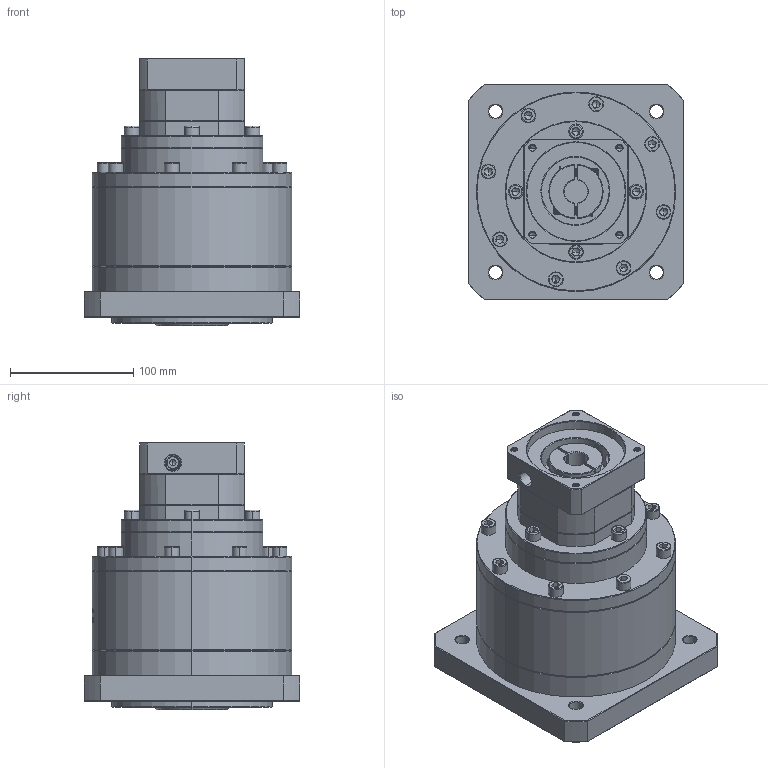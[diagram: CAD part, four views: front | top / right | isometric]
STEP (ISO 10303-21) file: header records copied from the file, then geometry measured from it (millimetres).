
FILE_DESCRIPTION (( 'STEP AP214' ), '1' );
FILE_NAME ('ZF160A-K35-L3-19-80-100-M6.step', '2023-03-22T07:12:38', ( '' ), ( '' ), 'SwSTEP 2.0', 'SolidWorks 2016', '' );
FILE_SCHEMA (( 'AUTOMOTIVE_DESIGN' ));
Length unit declared in the file: millimetre
Products named in the file (1): ZF160A-K35-L3-19-80-100-M6
Bounding box: 175 x 175 x 217.2 mm (x, y, z)
Volume: 3237408.2 mm3; surface area: 221695.1 mm2
Topology: 5 solids, 6 shells, 1791 faces, 4531 edges, 2859 vertices
Faces by surface type: plane 769, cylinder 427, cone 339, bspline 197, torus 59
Entity records: 90921 total; most frequent: CARTESIAN_POINT 30181, ORIENTED_EDGE 8958, DIRECTION 7917, EDGE_CURVE 4479, VERTEX_POINT 2859, AXIS2_PLACEMENT_3D 2737, LINE 2443, VECTOR 2443
